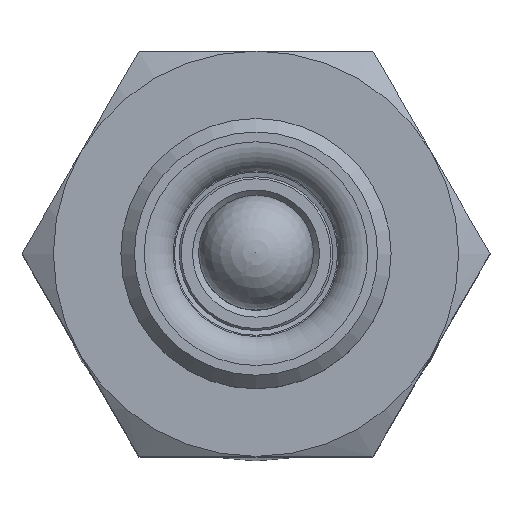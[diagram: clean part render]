
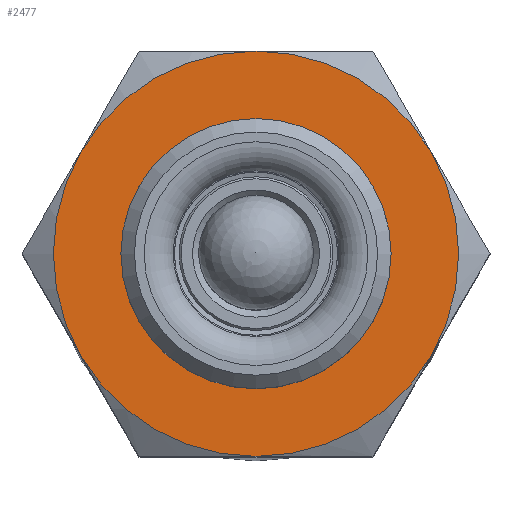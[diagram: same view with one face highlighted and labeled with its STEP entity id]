
A CAD part, top view. The second image highlights one B-rep face of the part: STEP entity #2477.
In plain terms, the highlighted planar face has unit normal (0, 0, 1) as drawn and (1, 0, 0) by its records, which use the part's own axes.
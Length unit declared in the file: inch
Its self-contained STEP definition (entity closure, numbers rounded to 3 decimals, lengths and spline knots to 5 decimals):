
#449=FACE_BOUND('',#796,.T.);
#592=FACE_OUTER_BOUND('',#795,.T.);
#795=EDGE_LOOP('',(#2040,#2041,#2042,#2043,#2044,#2045));
#796=EDGE_LOOP('',(#2046));
#970=CIRCLE('',#2867,0.25006);
#971=CIRCLE('',#2869,0.375);
#972=CIRCLE('',#2870,0.375);
#973=CIRCLE('',#2871,0.375);
#974=CIRCLE('',#2872,0.375);
#975=CIRCLE('',#2873,0.375);
#976=CIRCLE('',#2874,0.375);
#1161=VERTEX_POINT('',#4520);
#1162=VERTEX_POINT('',#4524);
#1163=VERTEX_POINT('',#4525);
#1164=VERTEX_POINT('',#4527);
#1165=VERTEX_POINT('',#4529);
#1166=VERTEX_POINT('',#4531);
#1167=VERTEX_POINT('',#4533);
#1455=EDGE_CURVE('',#1161,#1161,#970,.T.);
#1457=EDGE_CURVE('',#1162,#1163,#971,.T.);
#1458=EDGE_CURVE('',#1163,#1164,#972,.T.);
#1459=EDGE_CURVE('',#1164,#1165,#973,.T.);
#1460=EDGE_CURVE('',#1165,#1166,#974,.T.);
#1461=EDGE_CURVE('',#1166,#1167,#975,.T.);
#1462=EDGE_CURVE('',#1167,#1162,#976,.T.);
#2040=ORIENTED_EDGE('',*,*,#1457,.T.);
#2041=ORIENTED_EDGE('',*,*,#1458,.T.);
#2042=ORIENTED_EDGE('',*,*,#1459,.T.);
#2043=ORIENTED_EDGE('',*,*,#1460,.T.);
#2044=ORIENTED_EDGE('',*,*,#1461,.T.);
#2045=ORIENTED_EDGE('',*,*,#1462,.T.);
#2046=ORIENTED_EDGE('',*,*,#1455,.F.);
#2179=PLANE('',#2868);
#2477=ADVANCED_FACE('',(#592,#449),#2179,.T.);
#2867=AXIS2_PLACEMENT_3D('',#4521,#3608,#3609);
#2868=AXIS2_PLACEMENT_3D('',#4523,#3611,#3612);
#2869=AXIS2_PLACEMENT_3D('',#4526,#3613,#3614);
#2870=AXIS2_PLACEMENT_3D('',#4528,#3615,#3616);
#2871=AXIS2_PLACEMENT_3D('',#4530,#3617,#3618);
#2872=AXIS2_PLACEMENT_3D('',#4532,#3619,#3620);
#2873=AXIS2_PLACEMENT_3D('',#4534,#3621,#3622);
#2874=AXIS2_PLACEMENT_3D('',#4535,#3623,#3624);
#3608=DIRECTION('center_axis',(1.,0.,0.));
#3609=DIRECTION('ref_axis',(0.,0.,1.));
#3611=DIRECTION('center_axis',(1.,0.,0.));
#3612=DIRECTION('ref_axis',(0.,0.,-1.));
#3613=DIRECTION('center_axis',(1.,0.,0.));
#3614=DIRECTION('ref_axis',(0.,1.,0.));
#3615=DIRECTION('center_axis',(1.,0.,0.));
#3616=DIRECTION('ref_axis',(0.,1.,0.));
#3617=DIRECTION('center_axis',(1.,0.,0.));
#3618=DIRECTION('ref_axis',(0.,1.,0.));
#3619=DIRECTION('center_axis',(1.,0.,0.));
#3620=DIRECTION('ref_axis',(0.,1.,0.));
#3621=DIRECTION('center_axis',(1.,0.,0.));
#3622=DIRECTION('ref_axis',(0.,1.,0.));
#3623=DIRECTION('center_axis',(1.,0.,0.));
#3624=DIRECTION('ref_axis',(0.,1.,0.));
#4520=CARTESIAN_POINT('',(0.448,0.,-0.25006));
#4521=CARTESIAN_POINT('Origin',(0.448,0.,0.));
#4523=CARTESIAN_POINT('Origin',(0.448,0.,0.));
#4524=CARTESIAN_POINT('',(0.448,-0.32476,-0.1875));
#4525=CARTESIAN_POINT('',(0.448,0.,-0.375));
#4526=CARTESIAN_POINT('Origin',(0.448,0.,0.));
#4527=CARTESIAN_POINT('',(0.448,0.32476,-0.1875));
#4528=CARTESIAN_POINT('Origin',(0.448,0.,0.));
#4529=CARTESIAN_POINT('',(0.448,0.32476,0.1875));
#4530=CARTESIAN_POINT('Origin',(0.448,0.,0.));
#4531=CARTESIAN_POINT('',(0.448,0.,0.375));
#4532=CARTESIAN_POINT('Origin',(0.448,0.,0.));
#4533=CARTESIAN_POINT('',(0.448,-0.32476,0.1875));
#4534=CARTESIAN_POINT('Origin',(0.448,0.,0.));
#4535=CARTESIAN_POINT('Origin',(0.448,0.,0.));
